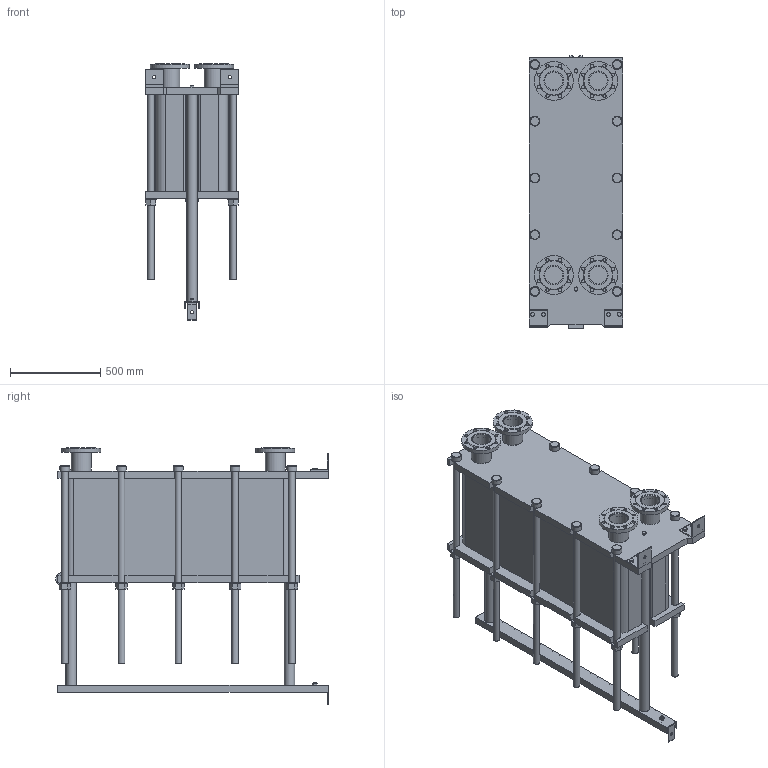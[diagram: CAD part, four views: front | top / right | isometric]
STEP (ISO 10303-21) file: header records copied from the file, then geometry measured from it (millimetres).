
FILE_DESCRIPTION(/* description */ (''),/* implementation_level */ '2;1');
FILE_NAME(/* name */ 'C:\Users\zhuro\Desktop\ENCO\TO\ЭН-04\ЭН-0,5-04-156-1.stp',/* time_stamp */ '2022-06-06T10:59:16+03:00',/* author */ ('zhuro'),/* organization */ (''),/* preprocessor_version */ 'ST-DEVELOPER v18.1',/* originating_system */ 'Autodesk Inventor 2022',/* authorisation */ '');
FILE_SCHEMA (('AUTOMOTIVE_DESIGN { 1 0 10303 214 3 1 1 }'));
Length unit declared in the file: millimetre
Products named in the file (1): ЭН-0,5-04-156-1
Bounding box: 520 x 1510 x 1423 mm (x, y, z)
Volume: 343189133.9 mm3; surface area: 9586707.2 mm2
Topology: 45 solids, 45 shells, 668 faces, 1611 edges, 1048 vertices
Faces by surface type: plane 457, cylinder 166, cone 39, torus 6
Full cylindrical faces by diameter (mm): 8 x4, 10 x2, 16 x8, 18 x35, 36 x25, 40 x2, 42 x1, 45 x4, 54 x10, 57 x2, 60 x10, 68 x2, 100 x4, 110 x8, 215 x4
Entity records: 23607 total; most frequent: CARTESIAN_POINT 7348, DIRECTION 3371, ORIENTED_EDGE 3142, EDGE_CURVE 1571, AXIS2_PLACEMENT_3D 1199, VERTEX_POINT 1044, LINE 973, VECTOR 973
